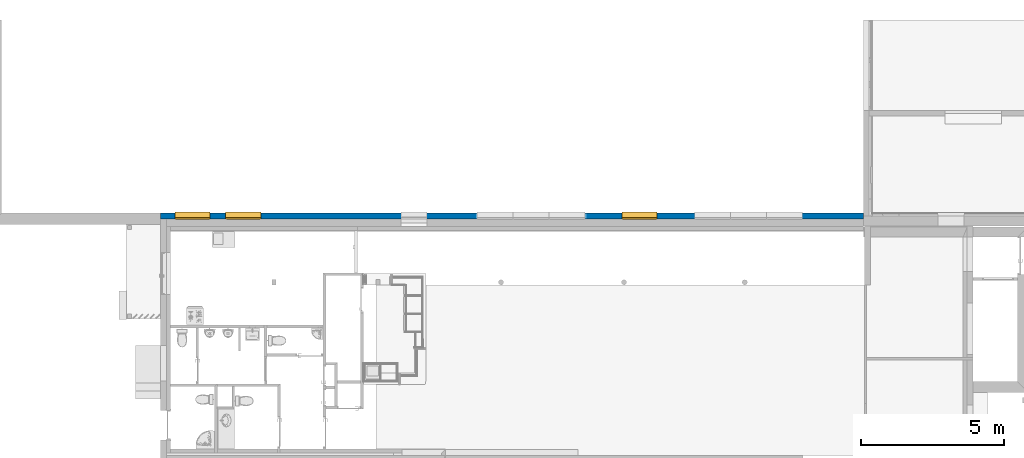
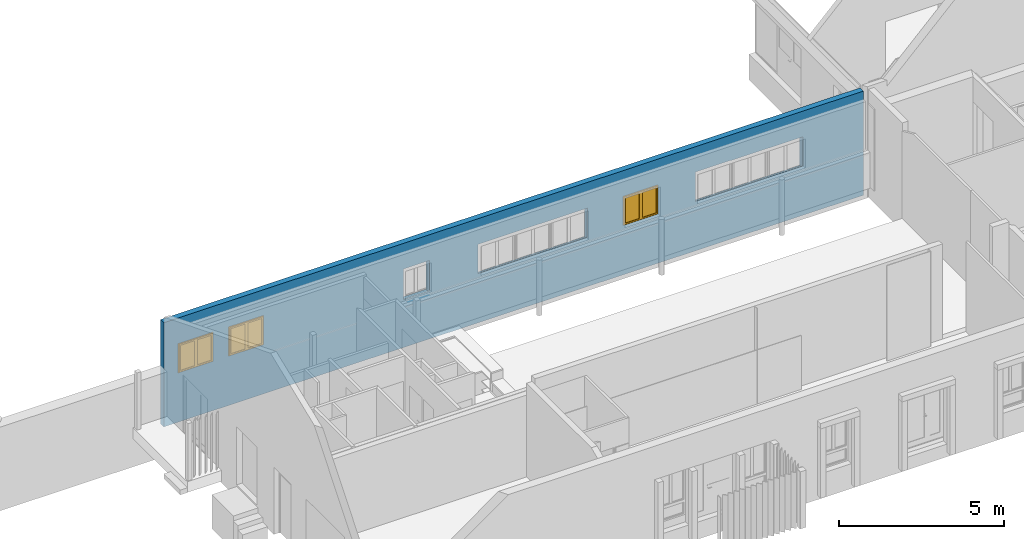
# One storey, part 8 of 34: 3 windows, 1 wall, 16 openings.
"""IFC2X3 building model written with IfcOpenShell, lengths in metres."""

from ifc_helpers import new_model, entity, si_unit, converted_unit, derived_unit, money_unit, direction, frame, origin_with_axes, origin_2d_with_axis, place, context, subcontext, project, spatial, polyline, rectangle, outline, extrude, clip, halfspace, open_shell, faceted_brep, surface_model, source, transform, mapped, material, layer, layer_set, layer_usage, type_object, element, fill, save


model = new_model("IFC2X3")

# Units and contexts
model_context = context("Model", 3, precision=1e-05, world=origin_with_axes(), true_north=direction((0.0, 1.0)))
body_context = subcontext(model_context, "Body", "Model", "MODEL_VIEW")
ifc_project = project(units=[si_unit("LENGTHUNIT", "METRE"), si_unit("AREAUNIT", "SQUARE_METRE"), si_unit("VOLUMEUNIT", "CUBIC_METRE"), converted_unit("PLANEANGLEUNIT", "DEGREE", entity("IfcPlaneAngleMeasure", 0.0174532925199), si_unit("PLANEANGLEUNIT", "RADIAN"), dimensions=[0, 0, 0, 0, 0, 0, 0]), money_unit("CHF"), converted_unit("TIMEUNIT", "Year", entity("IfcTimeMeasure", 31556926.0), si_unit("TIMEUNIT", "SECOND"), dimensions=[0, 0, 1, 0, 0, 0, 0]), si_unit("MASSUNIT", "GRAM", prefix="KILO"), si_unit("THERMODYNAMICTEMPERATUREUNIT", "DEGREE_CELSIUS"), si_unit("LUMINOUSINTENSITYUNIT", "LUMEN"), si_unit("ENERGYUNIT", "JOULE", prefix="MEGA"), derived_unit("THERMALCONDUCTANCEUNIT", [(si_unit("POWERUNIT", "WATT"), 1), (si_unit("LENGTHUNIT", "METRE"), -1), (si_unit("THERMODYNAMICTEMPERATUREUNIT", "KELVIN"), -1)]), derived_unit("SPECIFICHEATCAPACITYUNIT", [(si_unit("ENERGYUNIT", "JOULE"), 1), (si_unit("MASSUNIT", "GRAM", prefix="KILO"), -1), (si_unit("THERMODYNAMICTEMPERATUREUNIT", "KELVIN"), -1)]), derived_unit("MASSDENSITYUNIT", [(si_unit("MASSUNIT", "GRAM", prefix="KILO"), 1), (si_unit("VOLUMEUNIT", "CUBIC_METRE"), -1)])], contexts=[model_context])

# Site, building, storey
site_placement = place(None, origin_with_axes())
site = spatial("IfcSite", under=ifc_project, at=site_placement, Name="Site", CompositionType="ELEMENT")
building_placement = place(site_placement, origin_with_axes())
building = spatial("IfcBuilding", under=site, at=building_placement, Name="Bâtiment", CompositionType="ELEMENT")
storey_placement = place(building_placement, origin_with_axes())
storey = spatial("IfcBuildingStorey", under=building, at=storey_placement, Name="RDC", CompositionType="ELEMENT", Elevation=-5.32907e-15)

# Wall, openings, windows
ifc_material = material(Name="Diagonales 1167258944")
ifc_layer = layer(ifc_material, 0.2, ventilated="UNKNOWN")
ifc_layer_set = layer_set([ifc_layer], Name="Diagonales 1167258944 0.2")
ifc_layer_usage = layer_usage(ifc_layer_set, "AXIS2", "NEGATIVE", 0.0)
wall_type = type_object("IfcWallType", Name="Diagonales 1167258944 200", PredefinedType="NOTDEFINED")
wall_placement = place(storey_placement, frame((1667.41729001, 190.70004191, -0.0599999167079), z_axis=(0.0, 0.0, 1.0), x_axis=(1.0, 0.0, 0.0)))
wall = element("IfcWallStandardCase", 1, at=wall_placement, inside=storey, type_object=wall_type, material=ifc_layer_usage, Name="Mur-002", context=body_context, shape_type="Clipping", body=[
    clip(extrude(outline(polyline([(0.0, -0.2), (24.52, -0.2), (24.52, 0.0), (0.0, 0.0), (0.0, -0.2)])), origin_with_axes(), (0.0, 0.0, 1.0), 3.86), halfspace(frame((0.0, 1.37507086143, 3.43767715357), z_axis=(0.0, -0.371390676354, -0.928476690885), x_axis=(0.0, 0.928476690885, -0.371390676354)), True)),
])
opening_1_placement = place(wall_placement, frame((2.885, 0.0, 1.82999991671), z_axis=(0.0, 0.0, 1.0), x_axis=(1.0, 0.0, 0.0)))
opening_1 = element("IfcOpeningElement", 2, at=opening_1_placement, cuts=wall, Name="Fen-003", context=body_context, shape_type="SweptSolid", body=[
    extrude(rectangle(XDim=1.23, YDim=1.08, at=origin_2d_with_axis()), frame((0.0, -0.15, 0.54), z_axis=(0.0, -1.0, 0.0), x_axis=(-1.0, 0.0, 0.0)), (0.0, 0.0, -1.0), 0.35),
    extrude(rectangle(XDim=1.23, YDim=1.08, at=origin_2d_with_axis()), frame((0.0, -0.15, 0.54), z_axis=(0.0, 1.0, 0.0), x_axis=(-1.0, 0.0, 0.0)), (0.0, 0.0, -1.0), 0.25),
    extrude(rectangle(XDim=1.23, YDim=0.1, at=origin_2d_with_axis()), frame((0.0, -0.185, -0.05), z_axis=(0.0, -1.0, 0.0), x_axis=(-1.0, 0.0, 0.0)), (0.0, 0.0, -1.0), 0.235),
])
opening_2_placement = place(wall_placement, frame((11.625, 0.0, 1.82999991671), z_axis=(0.0, 0.0, 1.0), x_axis=(1.0, 0.0, 0.0)))
element("IfcOpeningElement", 3, at=opening_2_placement, cuts=wall, Name="Fen-003", context=body_context, shape_type="SweptSolid", body=[
    extrude(rectangle(XDim=1.23, YDim=1.08, at=origin_2d_with_axis()), frame((0.0, -0.15, 0.54), z_axis=(0.0, -1.0, 0.0), x_axis=(-1.0, 0.0, 0.0)), (0.0, 0.0, -1.0), 0.35),
    extrude(rectangle(XDim=1.23, YDim=1.08, at=origin_2d_with_axis()), frame((0.0, -0.15, 0.54), z_axis=(0.0, 1.0, 0.0), x_axis=(-1.0, 0.0, 0.0)), (0.0, 0.0, -1.0), 0.25),
    extrude(rectangle(XDim=1.23, YDim=0.1, at=origin_2d_with_axis()), frame((0.0, -0.185, -0.05), z_axis=(0.0, -1.0, 0.0), x_axis=(-1.0, 0.0, 0.0)), (0.0, 0.0, -1.0), 0.235),
])
opening_3_placement = place(wall_placement, frame((14.2023151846, 0.0, 1.82999991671), z_axis=(0.0, 0.0, 1.0), x_axis=(1.0, 0.0, 0.0)))
element("IfcOpeningElement", 4, at=opening_3_placement, cuts=wall, Name="Fen-004", context=body_context, shape_type="SweptSolid", body=[
    extrude(rectangle(XDim=1.30821012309, YDim=1.08, at=origin_2d_with_axis()), frame((0.0, -0.15, 0.54), z_axis=(0.0, -1.0, 0.0), x_axis=(-1.0, 0.0, 0.0)), (0.0, 0.0, -1.0), 0.35),
    extrude(rectangle(XDim=1.30821012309, YDim=1.08, at=origin_2d_with_axis()), frame((0.0, -0.15, 0.54), z_axis=(0.0, 1.0, 0.0), x_axis=(-1.0, 0.0, 0.0)), (0.0, 0.0, -1.0), 0.25),
    extrude(rectangle(XDim=1.30821012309, YDim=0.1, at=origin_2d_with_axis()), frame((0.0, -0.185, -0.05), z_axis=(0.0, -1.0, 0.0), x_axis=(-1.0, 0.0, 0.0)), (0.0, 0.0, -1.0), 0.235),
])
opening_4_placement = place(wall_placement, frame((16.705, 0.0, 1.82999991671), z_axis=(0.0, 0.0, 1.0), x_axis=(1.0, 0.0, 0.0)))
opening_4 = element("IfcOpeningElement", 5, at=opening_4_placement, cuts=wall, Name="Fen-005", context=body_context, shape_type="SweptSolid", body=[
    extrude(rectangle(XDim=1.23, YDim=1.08, at=origin_2d_with_axis()), frame((0.0, -0.15, 0.54), z_axis=(0.0, -1.0, 0.0), x_axis=(-1.0, 0.0, 0.0)), (0.0, 0.0, -1.0), 0.35),
    extrude(rectangle(XDim=1.23, YDim=1.08, at=origin_2d_with_axis()), frame((0.0, -0.15, 0.54), z_axis=(0.0, 1.0, 0.0), x_axis=(-1.0, 0.0, 0.0)), (0.0, 0.0, -1.0), 0.25),
    extrude(rectangle(XDim=1.23, YDim=0.1, at=origin_2d_with_axis()), frame((0.0, -0.185, -0.05), z_axis=(0.0, -1.0, 0.0), x_axis=(-1.0, 0.0, 0.0)), (0.0, 0.0, -1.0), 0.235),
])
opening_5_placement = place(wall_placement, frame((19.245, 0.0, 1.83999991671), z_axis=(0.0, 0.0, 1.0), x_axis=(1.0, 0.0, 0.0)))
element("IfcOpeningElement", 6, at=opening_5_placement, cuts=wall, Name="Fen-006", context=body_context, shape_type="SweptSolid", body=[
    extrude(rectangle(XDim=1.23, YDim=1.08, at=origin_2d_with_axis()), frame((0.0, -0.15, 0.54), z_axis=(0.0, -1.0, 0.0), x_axis=(-1.0, 0.0, 0.0)), (0.0, 0.0, -1.0), 0.35),
    extrude(rectangle(XDim=1.23, YDim=1.08, at=origin_2d_with_axis()), frame((0.0, -0.15, 0.54), z_axis=(0.0, 1.0, 0.0), x_axis=(-1.0, 0.0, 0.0)), (0.0, 0.0, -1.0), 0.25),
    extrude(rectangle(XDim=1.23, YDim=0.1, at=origin_2d_with_axis()), frame((0.0, -0.185, -0.05), z_axis=(0.0, -1.0, 0.0), x_axis=(-1.0, 0.0, 0.0)), (0.0, 0.0, -1.0), 0.235),
])
opening_6_placement = place(wall_placement, frame((21.785, 0.0, 1.82999991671), z_axis=(0.0, 0.0, 1.0), x_axis=(1.0, 0.0, 0.0)))
element("IfcOpeningElement", 7, at=opening_6_placement, cuts=wall, Name="Fen-007", context=body_context, shape_type="SweptSolid", body=[
    extrude(rectangle(XDim=1.23, YDim=1.08, at=origin_2d_with_axis()), frame((0.0, -0.15, 0.54), z_axis=(0.0, -1.0, 0.0), x_axis=(-1.0, 0.0, 0.0)), (0.0, 0.0, -1.0), 0.35),
    extrude(rectangle(XDim=1.23, YDim=1.08, at=origin_2d_with_axis()), frame((0.0, -0.15, 0.54), z_axis=(0.0, 1.0, 0.0), x_axis=(-1.0, 0.0, 0.0)), (0.0, 0.0, -1.0), 0.25),
    extrude(rectangle(XDim=1.23, YDim=0.1, at=origin_2d_with_axis()), frame((0.0, -0.185, -0.05), z_axis=(0.0, -1.0, 0.0), x_axis=(-1.0, 0.0, 0.0)), (0.0, 0.0, -1.0), 0.235),
])
opening_7_placement = place(wall_placement, frame((1.115, 0.0, 1.82999991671), z_axis=(0.0, 0.0, 1.0), x_axis=(1.0, 0.0, 0.0)))
opening_7 = element("IfcOpeningElement", 8, at=opening_7_placement, cuts=wall, Name="Fen-003", context=body_context, shape_type="SweptSolid", body=[
    extrude(rectangle(XDim=1.23, YDim=1.08, at=origin_2d_with_axis()), frame((0.0, -0.15, 0.54), z_axis=(0.0, -1.0, 0.0), x_axis=(-1.0, 0.0, 0.0)), (0.0, 0.0, -1.0), 0.35),
    extrude(rectangle(XDim=1.23, YDim=1.08, at=origin_2d_with_axis()), frame((0.0, -0.15, 0.54), z_axis=(0.0, 1.0, 0.0), x_axis=(-1.0, 0.0, 0.0)), (0.0, 0.0, -1.0), 0.25),
    extrude(rectangle(XDim=1.23, YDim=0.1, at=origin_2d_with_axis()), frame((0.0, -0.185, -0.05), z_axis=(0.0, -1.0, 0.0), x_axis=(-1.0, 0.0, 0.0)), (0.0, 0.0, -1.0), 0.235),
])
opening_8_placement = place(wall_placement, frame((12.9249202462, 0.0, 1.82999991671), z_axis=(0.0, 0.0, 1.0), x_axis=(1.0, 0.0, 0.0)))
element("IfcOpeningElement", 9, at=opening_8_placement, cuts=wall, Name="Fen-003", context=body_context, shape_type="SweptSolid", body=[
    extrude(rectangle(XDim=1.257, YDim=1.08, at=origin_2d_with_axis()), frame((0.0, -0.15, 0.54), z_axis=(0.0, -1.0, 0.0), x_axis=(-1.0, 0.0, 0.0)), (0.0, 0.0, -1.0), 0.35),
    extrude(rectangle(XDim=1.257, YDim=1.08, at=origin_2d_with_axis()), frame((0.0, -0.15, 0.54), z_axis=(0.0, 1.0, 0.0), x_axis=(-1.0, 0.0, 0.0)), (0.0, 0.0, -1.0), 0.25),
    extrude(rectangle(XDim=1.257, YDim=0.1, at=origin_2d_with_axis()), frame((0.0, -0.185, -0.05), z_axis=(0.0, -1.0, 0.0), x_axis=(-1.0, 0.0, 0.0)), (0.0, 0.0, -1.0), 0.235),
])
opening_9_placement = place(wall_placement, frame((20.5155, 0.0, 1.82999991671), z_axis=(0.0, 0.0, 1.0), x_axis=(1.0, 0.0, 0.0)))
element("IfcOpeningElement", 10, at=opening_9_placement, cuts=wall, Name="Fen-003", context=body_context, shape_type="SweptSolid", body=[
    extrude(rectangle(XDim=1.257, YDim=1.08, at=origin_2d_with_axis()), frame((0.0, -0.15, 0.54), z_axis=(0.0, -1.0, 0.0), x_axis=(-1.0, 0.0, 0.0)), (0.0, 0.0, -1.0), 0.35),
    extrude(rectangle(XDim=1.257, YDim=1.08, at=origin_2d_with_axis()), frame((0.0, -0.15, 0.54), z_axis=(0.0, 1.0, 0.0), x_axis=(-1.0, 0.0, 0.0)), (0.0, 0.0, -1.0), 0.25),
    extrude(rectangle(XDim=1.257, YDim=0.1, at=origin_2d_with_axis()), frame((0.0, -0.185, -0.05), z_axis=(0.0, -1.0, 0.0), x_axis=(-1.0, 0.0, 0.0)), (0.0, 0.0, -1.0), 0.235),
])
opening_10_placement = place(wall_placement, frame((14.1819202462, 0.0, 1.82999991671), z_axis=(0.0, 0.0, 1.0), x_axis=(1.0, 0.0, 0.0)))
element("IfcOpeningElement", 11, at=opening_10_placement, cuts=wall, Name="Fen-003", context=body_context, shape_type="SweptSolid", body=[
    extrude(rectangle(XDim=1.257, YDim=1.08, at=origin_2d_with_axis()), frame((0.0, -0.15, 0.54), z_axis=(0.0, -1.0, 0.0), x_axis=(-1.0, 0.0, 0.0)), (0.0, 0.0, -1.0), 0.35),
    extrude(rectangle(XDim=1.257, YDim=1.08, at=origin_2d_with_axis()), frame((0.0, -0.15, 0.54), z_axis=(0.0, 1.0, 0.0), x_axis=(-1.0, 0.0, 0.0)), (0.0, 0.0, -1.0), 0.25),
    extrude(rectangle(XDim=1.257, YDim=0.1, at=origin_2d_with_axis()), frame((0.0, -0.185, -0.05), z_axis=(0.0, -1.0, 0.0), x_axis=(-1.0, 0.0, 0.0)), (0.0, 0.0, -1.0), 0.235),
])
opening_11_placement = place(wall_placement, frame((11.6679202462, 0.0, 1.82999991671), z_axis=(0.0, 0.0, 1.0), x_axis=(1.0, 0.0, 0.0)))
element("IfcOpeningElement", 12, at=opening_11_placement, cuts=wall, Name="Fen-003", context=body_context, shape_type="SweptSolid", body=[
    extrude(rectangle(XDim=1.257, YDim=1.08, at=origin_2d_with_axis()), frame((0.0, -0.15, 0.54), z_axis=(0.0, -1.0, 0.0), x_axis=(-1.0, 0.0, 0.0)), (0.0, 0.0, -1.0), 0.35),
    extrude(rectangle(XDim=1.257, YDim=1.08, at=origin_2d_with_axis()), frame((0.0, -0.15, 0.54), z_axis=(0.0, 1.0, 0.0), x_axis=(-1.0, 0.0, 0.0)), (0.0, 0.0, -1.0), 0.25),
    extrude(rectangle(XDim=1.257, YDim=0.1, at=origin_2d_with_axis()), frame((0.0, -0.185, -0.05), z_axis=(0.0, -1.0, 0.0), x_axis=(-1.0, 0.0, 0.0)), (0.0, 0.0, -1.0), 0.235),
])
opening_12_placement = place(wall_placement, frame((21.7725, 0.0, 1.82999991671), z_axis=(0.0, 0.0, 1.0), x_axis=(1.0, 0.0, 0.0)))
element("IfcOpeningElement", 13, at=opening_12_placement, cuts=wall, Name="Fen-003", context=body_context, shape_type="SweptSolid", body=[
    extrude(rectangle(XDim=1.257, YDim=1.08, at=origin_2d_with_axis()), frame((0.0, -0.15, 0.54), z_axis=(0.0, -1.0, 0.0), x_axis=(-1.0, 0.0, 0.0)), (0.0, 0.0, -1.0), 0.35),
    extrude(rectangle(XDim=1.257, YDim=1.08, at=origin_2d_with_axis()), frame((0.0, -0.15, 0.54), z_axis=(0.0, 1.0, 0.0), x_axis=(-1.0, 0.0, 0.0)), (0.0, 0.0, -1.0), 0.25),
    extrude(rectangle(XDim=1.257, YDim=0.1, at=origin_2d_with_axis()), frame((0.0, -0.185, -0.05), z_axis=(0.0, -1.0, 0.0), x_axis=(-1.0, 0.0, 0.0)), (0.0, 0.0, -1.0), 0.235),
])
opening_13_placement = place(wall_placement, frame((19.2585, 0.0, 1.82999991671), z_axis=(0.0, 0.0, 1.0), x_axis=(1.0, 0.0, 0.0)))
element("IfcOpeningElement", 14, at=opening_13_placement, cuts=wall, Name="Fen-003", context=body_context, shape_type="SweptSolid", body=[
    extrude(rectangle(XDim=1.257, YDim=1.08, at=origin_2d_with_axis()), frame((0.0, -0.15, 0.54), z_axis=(0.0, -1.0, 0.0), x_axis=(-1.0, 0.0, 0.0)), (0.0, 0.0, -1.0), 0.35),
    extrude(rectangle(XDim=1.257, YDim=1.08, at=origin_2d_with_axis()), frame((0.0, -0.15, 0.54), z_axis=(0.0, 1.0, 0.0), x_axis=(-1.0, 0.0, 0.0)), (0.0, 0.0, -1.0), 0.25),
    extrude(rectangle(XDim=1.257, YDim=0.1, at=origin_2d_with_axis()), frame((0.0, -0.185, -0.05), z_axis=(0.0, -1.0, 0.0), x_axis=(-1.0, 0.0, 0.0)), (0.0, 0.0, -1.0), 0.235),
])
opening_14_placement = place(wall_placement, frame((8.84769470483, 0.0, 1.82999991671), z_axis=(0.0, 0.0, 1.0), x_axis=(1.0, 0.0, 0.0)))
element("IfcOpeningElement", 15, at=opening_14_placement, cuts=wall, Name="Fen-003", context=body_context, shape_type="SweptSolid", body=[
    extrude(rectangle(XDim=0.91, YDim=1.08, at=origin_2d_with_axis()), frame((0.0, -0.15, 0.54), z_axis=(0.0, 1.0, 0.0), x_axis=(-1.0, 0.0, 0.0)), (0.0, 0.0, 1.0), 0.35),
    extrude(rectangle(XDim=0.91, YDim=1.08, at=origin_2d_with_axis()), frame((0.0, -0.15, 0.54), z_axis=(0.0, -1.0, 0.0), x_axis=(-1.0, 0.0, 0.0)), (0.0, 0.0, 1.0), 0.25),
    extrude(rectangle(XDim=0.91, YDim=0.1, at=origin_2d_with_axis()), frame((0.0, -0.185, -0.05), z_axis=(0.0, 1.0, 0.0), x_axis=(-1.0, 0.0, 0.0)), (0.0, 0.0, 1.0), 0.235),
])
opening_15_placement = place(wall_placement, frame((8.84769470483, 0.0, 1.77), z_axis=(0.0, 0.0, 1.0), x_axis=(1.0, 0.0, 0.0)))
element("IfcOpeningElement", 16, at=opening_15_placement, cuts=wall, Name="Por-005", context=body_context, shape_type="SweptSolid", body=[
    extrude(rectangle(XDim=0.91, YDim=1.1, at=origin_2d_with_axis()), frame((0.0, -0.1, 0.55), z_axis=(0.0, 1.0, 0.0), x_axis=(-1.0, 0.0, 0.0)), (0.0, 0.0, 1.0), 0.3),
    extrude(rectangle(XDim=0.91, YDim=1.1, at=origin_2d_with_axis()), frame((0.0, -0.1, 0.55), z_axis=(0.0, -1.0, 0.0), x_axis=(-1.0, 0.0, 0.0)), (0.0, 0.0, 1.0), 0.3),
])
opening_16_placement = place(wall_placement, frame((8.84769470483, 0.0, 1.77), z_axis=(0.0, 0.0, 1.0), x_axis=(1.0, 0.0, 0.0)))
element("IfcOpeningElement", 17, at=opening_16_placement, cuts=wall, Name="Por-005", context=body_context, shape_type="SweptSolid", body=[
    extrude(rectangle(XDim=0.91, YDim=1.1, at=origin_2d_with_axis()), frame((0.0, -0.1, 0.55), z_axis=(0.0, -1.0, 0.0), x_axis=(1.0, 0.0, 0.0)), (0.0, 0.0, -1.0), 0.3),
    extrude(rectangle(XDim=0.91, YDim=1.1, at=origin_2d_with_axis()), frame((0.0, -0.1, 0.55), z_axis=(0.0, 1.0, 0.0), x_axis=(1.0, 0.0, 0.0)), (0.0, 0.0, -1.0), 0.3),
])
window_style = type_object("IfcWindowStyle", Name="Fenêtre châssis double 25", ConstructionType="NOTDEFINED", OperationType="DOUBLE_PANEL_VERTICAL", ParameterTakesPrecedence=False, Sizeable=False)
shared_shape = source(origin_with_axes(), body_context, "Body", "SurfaceModel", [
    faceted_brep([(-0.615, -0.015, 0.0), (-0.615, -0.025, 0.0), (0.615, -0.025, 0.0), (0.615, -0.015, 0.0), (-0.615, -0.015, -0.1), (-0.615, -0.245, -0.1), (-0.615, -0.245, -0.01), (-0.615, -0.025, -0.01), (0.615, -0.025, -0.01), (0.615, -0.245, -0.01), (0.615, -0.245, -0.1), (0.615, -0.015, -0.1)], [[[0, 1, 2, 3]], [[0, 4, 5, 6, 7, 1]], [[1, 7, 8, 2]], [[3, 2, 8, 9, 10, 11]], [[4, 0, 3, 11]], [[5, 4, 11, 10]], [[6, 5, 10, 9]], [[7, 6, 9, 8]]]),
    faceted_brep([(-0.59, 0.0, 1.03), (-0.615, 0.0, 1.03), (-0.615, -0.05, 1.03), (-0.565, -0.05, 1.03), (-0.565, -0.025, 1.03), (-0.59, -0.025, 1.03), (-0.59, 0.0, 0.05), (-0.615, 0.0, 0.05), (-0.615, -0.05, 0.05), (-0.565, -0.05, 0.05), (-0.565, -0.025, 0.05), (-0.59, -0.025, 0.05)], [[[0, 1, 2, 3, 4, 5]], [[6, 7, 1, 0]], [[1, 7, 8, 2]], [[2, 8, 9, 3]], [[4, 3, 9, 10]], [[10, 11, 5, 4]], [[5, 11, 6, 0]], [[11, 10, 9, 8, 7, 6]]]),
    faceted_brep([(0.565, -0.025, 1.03), (0.565, -0.05, 1.03), (0.615, -0.05, 1.03), (0.615, 0.0, 1.03), (0.59, 0.0, 1.03), (0.59, -0.025, 1.03), (0.565, -0.025, 0.05), (0.565, -0.05, 0.05), (0.615, -0.05, 0.05), (0.615, 0.0, 0.05), (0.59, 0.0, 0.05), (0.59, -0.025, 0.05)], [[[0, 1, 2, 3, 4, 5]], [[6, 7, 1, 0]], [[8, 2, 1, 7]], [[9, 3, 2, 8]], [[4, 3, 9, 10]], [[10, 11, 5, 4]], [[5, 11, 6, 0]], [[11, 10, 9, 8, 7, 6]]]),
    faceted_brep([(0.565, -0.025, 0.05), (0.565, -0.05, 0.05), (0.615, -0.05, 0.05), (0.615, 0.0, 0.05), (0.59, 0.0, 0.05), (0.59, -0.025, 0.05), (-0.565, -0.025, 0.05), (-0.565, -0.05, 0.05), (-0.615, -0.05, 0.05), (-0.615, -0.05, 0.0), (0.615, -0.05, 0.0), (0.615, 0.0, 0.0), (-0.59, 0.0, 0.025), (0.59, 0.0, 0.025), (-0.615, 0.0, 0.0), (-0.615, 0.0, 0.05), (-0.59, 0.0, 0.05), (0.59, -0.025, 0.025), (-0.59, -0.025, 0.025), (-0.59, -0.025, 0.05)], [[[0, 1, 2, 3, 4, 5]], [[6, 7, 1, 0]], [[8, 9, 10, 2, 1, 7]], [[11, 3, 2, 10]], [[12, 13, 4, 3, 11, 14, 15, 16]], [[13, 17, 5, 4]], [[5, 17, 18, 19, 6, 0]], [[19, 16, 15, 8, 7, 6]], [[15, 14, 9, 8]], [[14, 11, 10, 9]], [[12, 18, 17, 13]], [[19, 18, 12, 16]]]),
    faceted_brep([(-0.59, 0.0, 1.03), (-0.615, 0.0, 1.03), (-0.615, 0.0, 1.08), (0.615, 0.0, 1.08), (0.615, 0.0, 1.03), (0.59, 0.0, 1.03), (0.59, 0.0, 1.055), (-0.59, 0.0, 1.055), (-0.59, -0.025, 1.03), (-0.565, -0.025, 1.03), (-0.565, -0.05, 1.03), (-0.615, -0.05, 1.03), (-0.615, -0.05, 1.08), (0.615, -0.05, 1.08), (0.615, -0.05, 1.03), (0.59, -0.025, 1.03), (0.565, -0.05, 1.03), (0.565, -0.025, 1.03), (0.59, -0.025, 1.055), (-0.59, -0.025, 1.055)], [[[0, 1, 2, 3, 4, 5, 6, 7]], [[8, 9, 10, 11, 1, 0]], [[2, 1, 11, 12]], [[3, 2, 12, 13]], [[4, 3, 13, 14]], [[15, 5, 4, 14, 16, 17]], [[5, 15, 18, 6]], [[6, 18, 19, 7]], [[7, 19, 8, 0]], [[17, 9, 8, 19, 18, 15]], [[17, 16, 10, 9]], [[14, 13, 12, 11, 10, 16]]]),
    faceted_brep([(-0.54, -0.025, 1.005), (-0.54, 0.025, 1.005), (-0.59, 0.025, 1.005), (-0.59, -0.025, 1.005), (-0.54, -0.025, 0.075), (-0.54, 0.025, 0.075), (-0.59, 0.025, 0.075), (-0.59, -0.025, 0.075)], [[[0, 1, 2, 3]], [[4, 5, 1, 0]], [[1, 5, 6, 2]], [[3, 2, 6, 7]], [[0, 3, 7, 4]], [[7, 6, 5, 4]]]),
    faceted_brep([(-0.05, -0.025, 0.075), (-0.05, 0.025, 0.075), (0.0, 0.025, 0.075), (0.0, -0.025, 0.075), (-0.05, -0.025, 1.005), (-0.05, 0.025, 1.005), (0.0, 0.025, 1.005), (0.0, -0.025, 1.005)], [[[0, 1, 2, 3]], [[4, 5, 1, 0]], [[1, 5, 6, 2]], [[3, 2, 6, 7]], [[0, 3, 7, 4]], [[7, 6, 5, 4]]]),
    faceted_brep([(0.0, -0.025, 0.025), (0.0, 0.025, 0.025), (0.0, 0.025, 0.075), (0.0, -0.025, 0.075), (-0.59, -0.025, 0.025), (-0.59, 0.025, 0.025), (-0.59, 0.025, 0.075), (-0.54, 0.025, 0.075), (-0.05, 0.025, 0.075), (-0.05, -0.025, 0.075), (-0.54, -0.025, 0.075), (-0.59, -0.025, 0.075)], [[[0, 1, 2, 3]], [[4, 5, 1, 0]], [[1, 5, 6, 7, 8, 2]], [[3, 2, 8, 9]], [[0, 3, 9, 10, 11, 4]], [[11, 6, 5, 4]], [[10, 7, 6, 11]], [[9, 8, 7, 10]]]),
    faceted_brep([(-0.59, -0.025, 1.055), (-0.59, 0.025, 1.055), (-0.59, 0.025, 1.005), (-0.59, -0.025, 1.005), (0.0, -0.025, 1.055), (0.0, 0.025, 1.055), (0.0, 0.025, 1.005), (-0.05, 0.025, 1.005), (-0.54, 0.025, 1.005), (-0.54, -0.025, 1.005), (-0.05, -0.025, 1.005), (0.0, -0.025, 1.005)], [[[0, 1, 2, 3]], [[4, 5, 1, 0]], [[1, 5, 6, 7, 8, 2]], [[3, 2, 8, 9]], [[0, 3, 9, 10, 11, 4]], [[11, 6, 5, 4]], [[10, 7, 6, 11]], [[9, 8, 7, 10]]]),
    surface_model("IfcShellBasedSurfaceModel", [(-0.54, -0.01, 0.075), (-0.05, -0.01, 0.075), (-0.05, -0.01, 1.005), (-0.54, -0.01, 1.005)], [open_shell([[[0, 1, 2, 3]]])]),
    surface_model("IfcShellBasedSurfaceModel", [(-0.54, 0.01, 0.075), (-0.54, 0.01, 1.005), (-0.05, 0.01, 1.005), (-0.05, 0.01, 0.075)], [open_shell([[[0, 1, 2, 3]]])]),
    faceted_brep([(0.05, -0.025, 1.005), (0.05, 0.025, 1.005), (0.0, 0.025, 1.005), (0.0, -0.025, 1.005), (0.05, -0.025, 0.075), (0.05, 0.025, 0.075), (0.0, 0.025, 0.075), (0.0, -0.025, 0.075)], [[[0, 1, 2, 3]], [[4, 5, 1, 0]], [[1, 5, 6, 2]], [[3, 2, 6, 7]], [[0, 3, 7, 4]], [[7, 6, 5, 4]]]),
    faceted_brep([(0.54, -0.025, 0.075), (0.54, 0.025, 0.075), (0.59, 0.025, 0.075), (0.59, -0.025, 0.075), (0.54, -0.025, 1.005), (0.54, 0.025, 1.005), (0.59, 0.025, 1.005), (0.59, -0.025, 1.005)], [[[0, 1, 2, 3]], [[4, 5, 1, 0]], [[1, 5, 6, 2]], [[3, 2, 6, 7]], [[0, 3, 7, 4]], [[7, 6, 5, 4]]]),
    faceted_brep([(0.59, -0.025, 0.025), (0.59, 0.025, 0.025), (0.59, 0.025, 0.075), (0.59, -0.025, 0.075), (0.0, -0.025, 0.025), (0.0, 0.025, 0.025), (0.0, 0.025, 0.075), (0.05, 0.025, 0.075), (0.54, 0.025, 0.075), (0.54, -0.025, 0.075), (0.05, -0.025, 0.075), (0.0, -0.025, 0.075)], [[[0, 1, 2, 3]], [[4, 5, 1, 0]], [[1, 5, 6, 7, 8, 2]], [[3, 2, 8, 9]], [[0, 3, 9, 10, 11, 4]], [[11, 6, 5, 4]], [[10, 7, 6, 11]], [[9, 8, 7, 10]]]),
    faceted_brep([(0.0, -0.025, 1.055), (0.0, 0.025, 1.055), (0.0, 0.025, 1.005), (0.0, -0.025, 1.005), (0.59, -0.025, 1.055), (0.59, 0.025, 1.055), (0.59, 0.025, 1.005), (0.54, 0.025, 1.005), (0.05, 0.025, 1.005), (0.05, -0.025, 1.005), (0.54, -0.025, 1.005), (0.59, -0.025, 1.005)], [[[0, 1, 2, 3]], [[4, 5, 1, 0]], [[1, 5, 6, 7, 8, 2]], [[3, 2, 8, 9]], [[0, 3, 9, 10, 11, 4]], [[11, 6, 5, 4]], [[10, 7, 6, 11]], [[9, 8, 7, 10]]]),
    surface_model("IfcShellBasedSurfaceModel", [(0.05, -0.01, 0.075), (0.54, -0.01, 0.075), (0.54, -0.01, 1.005), (0.05, -0.01, 1.005)], [open_shell([[[0, 1, 2, 3]]])]),
    surface_model("IfcShellBasedSurfaceModel", [(0.05, 0.01, 0.075), (0.05, 0.01, 1.005), (0.54, 0.01, 1.005), (0.54, 0.01, 0.075)], [open_shell([[[0, 1, 2, 3]]])]),
])
window_1_placement = place(opening_1_placement, frame((0.615, 0.0, 0.0), z_axis=(0.0, 0.0, 1.0), x_axis=(-1.0, 0.0, 0.0)))
window_1 = element("IfcWindow", 18, at=window_1_placement, inside=storey, type_object=window_style, Name="Fen-003", OverallHeight=1.08, OverallWidth=1.23, context=body_context, shape_type="MappedRepresentation", body=[
    mapped(shared_shape, transform((0.615, 0.2, 0.0))),
])
fill(opening_1, window_1)
window_2_placement = place(opening_4_placement, frame((0.615, 0.0, 0.0), z_axis=(0.0, 0.0, 1.0), x_axis=(-1.0, 0.0, 0.0)))
window_2 = element("IfcWindow", 19, at=window_2_placement, inside=storey, type_object=window_style, Name="Fen-005", OverallHeight=1.08, OverallWidth=1.23, context=body_context, shape_type="MappedRepresentation", body=[
    mapped(shared_shape, transform((0.615, 0.2, 0.0))),
])
fill(opening_4, window_2)
window_3_placement = place(opening_7_placement, frame((0.615, 0.0, 0.0), z_axis=(0.0, 0.0, 1.0), x_axis=(-1.0, 0.0, 0.0)))
window_3 = element("IfcWindow", 20, at=window_3_placement, inside=storey, type_object=window_style, Name="Fen-003", OverallHeight=1.08, OverallWidth=1.23, context=body_context, shape_type="MappedRepresentation", body=[
    mapped(shared_shape, transform((0.615, 0.2, 0.0))),
])
fill(opening_7, window_3)

save(model, "model.ifc")
